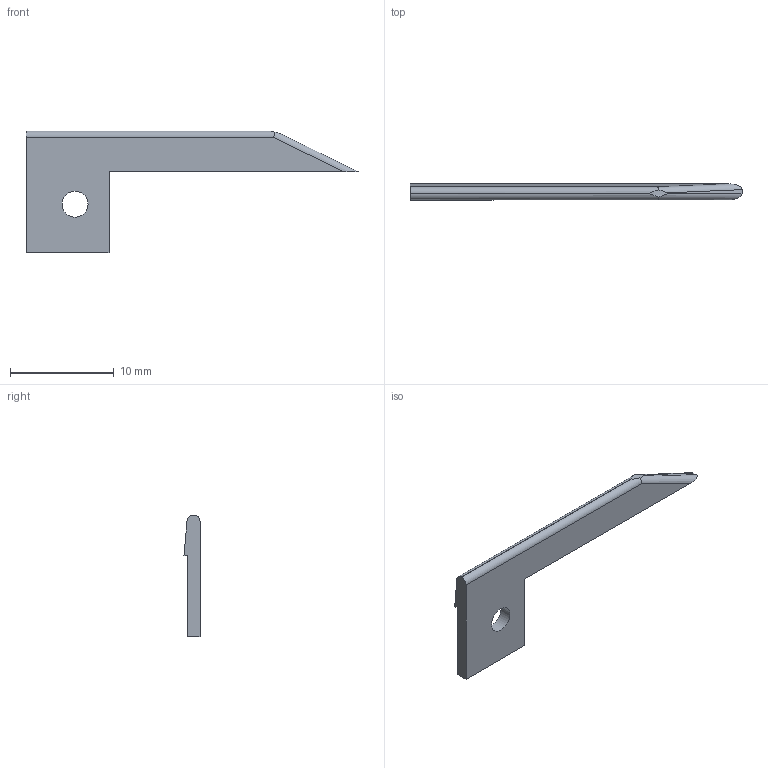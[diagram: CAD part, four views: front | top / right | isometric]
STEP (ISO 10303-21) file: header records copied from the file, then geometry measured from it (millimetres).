
FILE_DESCRIPTION(/* description */ (''),/* implementation_level */ '2;1');
FILE_NAME(/* name */ '/Users/tyler/Desktop/GLOCK SEAR/STEP/SEAR TIP.step',/* time_stamp */ '2020-04-21T22:22:37-04:00',/* author */ (''),/* organization */ (''),/* preprocessor_version */ 'ST-DEVELOPER v18.1',/* originating_system */ 'Autodesk Translation Framework v9.2.0.1227',/* authorisation */ '');
FILE_SCHEMA (('AUTOMOTIVE_DESIGN { 1 0 10303 214 3 1 1 }'));
Length unit declared in the file: millimetre
Products named in the file (1): (Unsaved)
Bounding box: 32 x 1.54 x 11.75 mm (x, y, z)
Volume: 216.1 mm3; surface area: 443.3 mm2
Topology: 1 solids, 1 shells, 15 faces, 40 edges, 27 vertices
Faces by surface type: plane 9, cylinder 6
Full cylindrical faces by diameter (mm): 2.5 x1
Entity records: 512 total; most frequent: CARTESIAN_POINT 95, ORIENTED_EDGE 80, DIRECTION 77, EDGE_CURVE 40, LINE 27, VECTOR 27, VERTEX_POINT 27, AXIS2_PLACEMENT_3D 25
